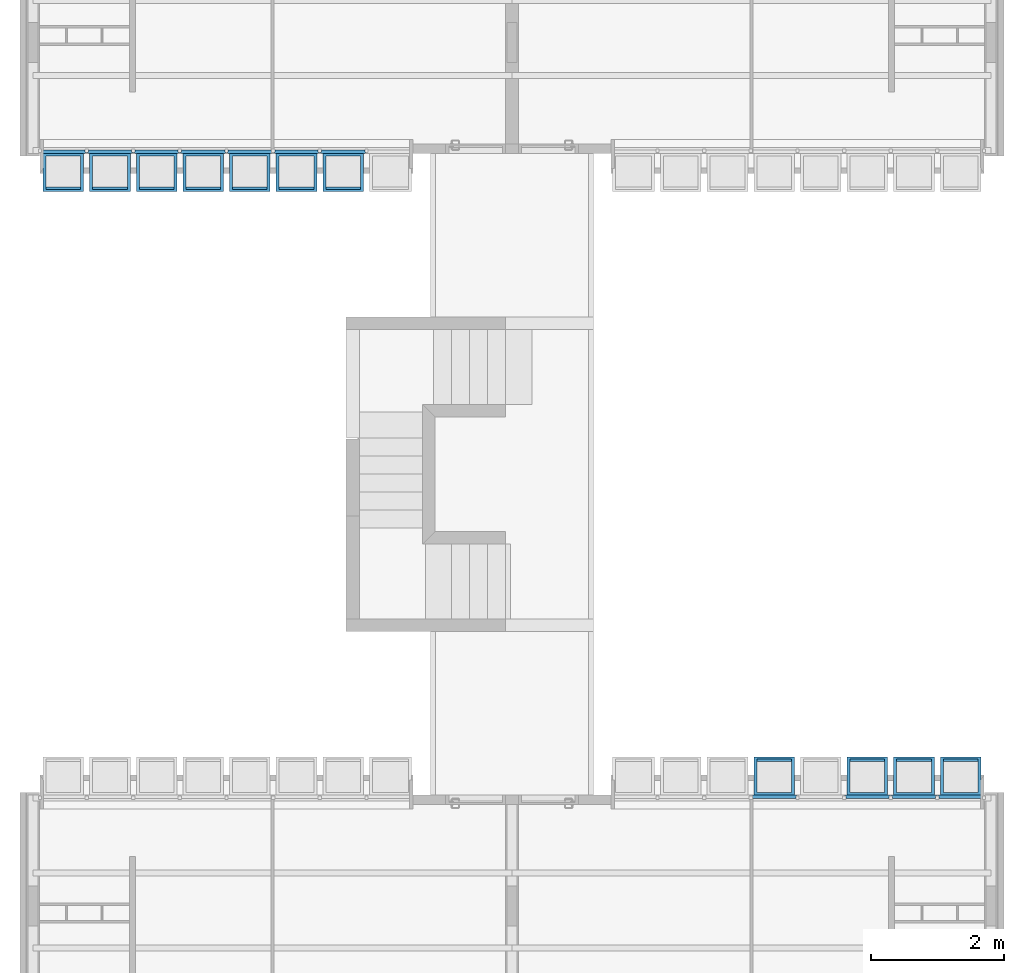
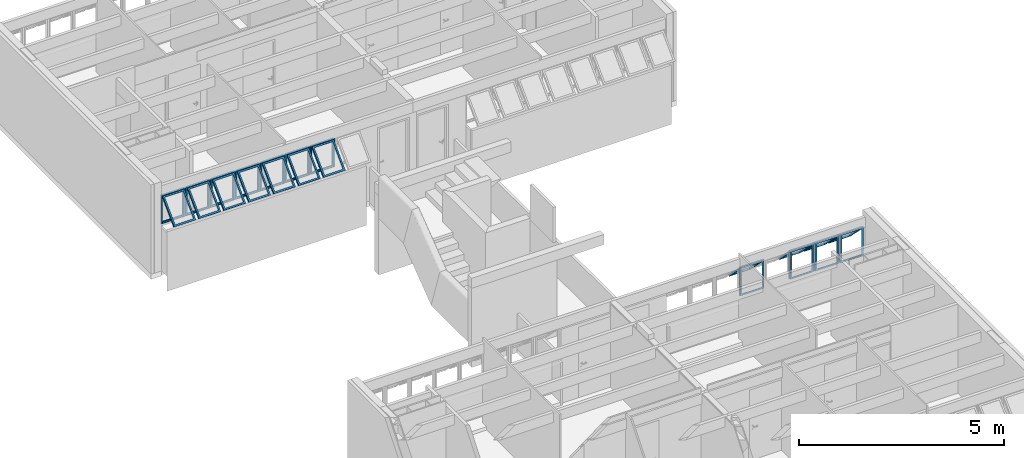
# One storey, part 31 of 38: 11 building element parts, 13 elements without a shape of their own.
"""IFC2X3 building model written with IfcOpenShell, lengths in millimetres."""

from ifc_helpers import new_model, entity, si_unit, converted_unit, derived_unit, money_unit, direction, frame, origin_with_axes, place, context, subcontext, project, spatial, faceted_brep, source, transform, mapped, material, type_object, element, aggregate, save


model = new_model("IFC2X3")

# Units and contexts
model_context = context("Model", 3, precision=0.01, world=origin_with_axes(), true_north=direction((0.0, 1.0)))
body_context = subcontext(model_context, "Body", "Model", "MODEL_VIEW")
ifc_project = project(units=[si_unit("LENGTHUNIT", "METRE", prefix="MILLI"), si_unit("AREAUNIT", "SQUARE_METRE"), si_unit("VOLUMEUNIT", "CUBIC_METRE"), converted_unit("PLANEANGLEUNIT", "DEGREE", entity("IfcPlaneAngleMeasure", 0.0174532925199), si_unit("PLANEANGLEUNIT", "RADIAN"), dimensions=[0, 0, 0, 0, 0, 0, 0]), money_unit("USD"), converted_unit("TIMEUNIT", "Year", entity("IfcTimeMeasure", 31556926.0), si_unit("TIMEUNIT", "SECOND"), dimensions=[0, 0, 1, 0, 0, 0, 0]), si_unit("MASSUNIT", "GRAM", prefix="KILO"), si_unit("THERMODYNAMICTEMPERATUREUNIT", "DEGREE_CELSIUS"), si_unit("LUMINOUSINTENSITYUNIT", "LUMEN"), si_unit("ENERGYUNIT", "JOULE", prefix="MEGA"), derived_unit("THERMALCONDUCTANCEUNIT", [(si_unit("POWERUNIT", "WATT"), 1), (si_unit("LENGTHUNIT", "METRE"), -1), (si_unit("THERMODYNAMICTEMPERATUREUNIT", "KELVIN"), -1)]), derived_unit("SPECIFICHEATCAPACITYUNIT", [(si_unit("ENERGYUNIT", "JOULE"), 1), (si_unit("MASSUNIT", "GRAM", prefix="KILO"), -1), (si_unit("THERMODYNAMICTEMPERATUREUNIT", "KELVIN"), -1)]), derived_unit("MASSDENSITYUNIT", [(si_unit("MASSUNIT", "GRAM", prefix="KILO"), 1), (si_unit("VOLUMEUNIT", "CUBIC_METRE"), -1)])], contexts=[model_context])

# Site, building, storey
site_placement = place(None, origin_with_axes())
site = spatial("IfcSite", under=ifc_project, at=site_placement, Name="Local", CompositionType="ELEMENT")
building_placement = place(site_placement, origin_with_axes())
building = spatial("IfcBuilding", under=site, at=building_placement, Name="Construção", CompositionType="ELEMENT")
storey_placement = place(building_placement, frame((0.0, 0.0, 2650.0), z_axis=(0.0, 0.0, 1.0), x_axis=(1.0, 0.0, 0.0)))
storey = spatial("IfcBuildingStorey", under=building, at=storey_placement, Name="Segundo Pavimento", CompositionType="ELEMENT", Elevation=2650.0)

# Window, plates, building element parts
window_style = type_object("IfcWindowStyle", Name="Tipo de Parede Cortina", ConstructionType="NOTDEFINED", OperationType="NOTDEFINED", ParameterTakesPrecedence=False, Sizeable=False)
window_1_placement = place(storey_placement, frame((2750.0, 17910.0, 1355.00007107), z_axis=(0.0, 0.0, 1.0), x_axis=(1.0, 0.0, 0.0)))
window_1 = element("IfcWindow", 1, at=window_1_placement, inside=storey, type_object=window_style, Name="APTO7-JANELA-000")
plate_type = type_object("IfcPlateType", Name="Painel Principal 690 x 845 x 20", PredefinedType="CURTAIN_PANEL")
plate_1_placement = place(window_1_placement, frame((0.0, 0.0, 422.499964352), z_axis=(0.0, 0.0, 1.0), x_axis=(-1.0, 0.0, 0.0)))
plate_1 = element("IfcPlate", 2, at=plate_1_placement, type_object=plate_type, Name="APTO7-Painel-Prin-013")
ifc_material = material(Name="Alumínio")
shared_shape_1 = source(origin_with_axes(), body_context, "Body", "Brep", [
    faceted_brep([(25.0000036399, 0.0, -40.0), (674.999997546, 0.0, -40.0), (674.999997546, 0.0, -35.0), (25.0000036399, 0.0, -35.0), (70.0000036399, 45.0, -40.0), (629.999997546, 45.0, -40.0), (629.999997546, 45.0, -35.0), (70.0000036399, 45.0, -35.0)], [[[0, 1, 2, 3]], [[0, 4, 5, 1]], [[1, 5, 6, 2]], [[3, 2, 6, 7]], [[4, 0, 3, 7]], [[5, 4, 7, 6]]]),
    faceted_brep([(674.999997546, 0.0, -40.0), (674.999997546, 844.999891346, -40.0), (674.999997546, 844.999891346, -35.0), (674.999997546, 0.0, -35.0), (629.999997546, 45.0, -40.0), (629.999997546, 799.999891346, -40.0), (629.999997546, 799.999891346, -35.0), (629.999997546, 45.0, -35.0)], [[[0, 1, 2, 3]], [[0, 4, 5, 1]], [[1, 5, 6, 2]], [[3, 2, 6, 7]], [[4, 0, 3, 7]], [[5, 4, 7, 6]]]),
    faceted_brep([(25.0000036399, 844.999891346, -40.0), (70.0000036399, 799.999891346, -40.0), (70.0000036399, 799.999891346, -35.0), (25.0000036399, 844.999891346, -35.0), (674.999997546, 844.999891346, -40.0), (629.999997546, 799.999891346, -40.0), (629.999997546, 799.999891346, -35.0), (674.999997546, 844.999891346, -35.0)], [[[0, 1, 2, 3]], [[0, 4, 5, 1]], [[1, 5, 6, 2]], [[3, 2, 6, 7]], [[4, 0, 3, 7]], [[5, 4, 7, 6]]]),
    faceted_brep([(25.0000036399, 0.0, -40.0), (70.0000036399, 45.0, -40.0), (70.0000036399, 45.0, -35.0), (25.0000036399, 0.0, -35.0), (25.0000036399, 844.999891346, -40.0), (70.0000036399, 799.999891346, -40.0), (70.0000036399, 799.999891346, -35.0), (25.0000036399, 844.999891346, -35.0)], [[[0, 1, 2, 3]], [[0, 4, 5, 1]], [[1, 5, 6, 2]], [[3, 2, 6, 7]], [[4, 0, 3, 7]], [[5, 4, 7, 6]]]),
    faceted_brep([(25.0000036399, 0.0, -35.0), (674.999997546, 0.0, -35.0), (674.999997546, 0.0, 15.0), (25.0000036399, 0.0, 15.0), (45.0000036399, 20.0, -35.0), (654.999997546, 20.0, -35.0), (654.999997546, 20.0, 15.0), (45.0000036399, 20.0, 15.0)], [[[0, 1, 2, 3]], [[0, 4, 5, 1]], [[1, 5, 6, 2]], [[3, 2, 6, 7]], [[4, 0, 3, 7]], [[5, 4, 7, 6]]]),
    faceted_brep([(674.999997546, 0.0, -35.0), (674.999997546, 844.999891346, -35.0), (674.999997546, 844.999891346, 15.0), (674.999997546, 0.0, 15.0), (654.999997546, 20.0, -35.0), (654.999997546, 824.999891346, -35.0), (654.999997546, 824.999891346, 15.0), (654.999997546, 20.0, 15.0)], [[[0, 1, 2, 3]], [[0, 4, 5, 1]], [[1, 5, 6, 2]], [[3, 2, 6, 7]], [[4, 0, 3, 7]], [[5, 4, 7, 6]]]),
    faceted_brep([(25.0000036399, 844.999891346, -35.0), (45.0000036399, 824.999891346, -35.0), (45.0000036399, 824.999891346, 15.0), (25.0000036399, 844.999891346, 15.0), (674.999997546, 844.999891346, -35.0), (654.999997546, 824.999891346, -35.0), (654.999997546, 824.999891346, 15.0), (674.999997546, 844.999891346, 15.0)], [[[0, 1, 2, 3]], [[0, 4, 5, 1]], [[1, 5, 6, 2]], [[3, 2, 6, 7]], [[4, 0, 3, 7]], [[5, 4, 7, 6]]]),
    faceted_brep([(25.0000036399, 0.0, -35.0), (45.0000036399, 20.0, -35.0), (45.0000036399, 20.0, 15.0), (25.0000036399, 0.0, 15.0), (25.0000036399, 844.999891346, -35.0), (45.0000036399, 824.999891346, -35.0), (45.0000036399, 824.999891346, 15.0), (25.0000036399, 844.999891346, 15.0)], [[[0, 1, 2, 3]], [[0, 4, 5, 1]], [[1, 5, 6, 2]], [[3, 2, 6, 7]], [[4, 0, 3, 7]], [[5, 4, 7, 6]]]),
    faceted_brep([(694.999995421, 0.0, -10.0), (694.999995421, 844.999891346, -10.0), (694.999995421, 844.999891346, 10.0), (694.999995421, 0.0, 10.0), (674.999997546, 0.0, -10.0), (674.999997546, 844.999891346, -10.0), (674.999997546, 844.999891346, 10.0), (674.999997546, 0.0, 10.0)], [[[0, 1, 2, 3]], [[0, 4, 5, 1]], [[1, 5, 6, 2]], [[3, 2, 6, 7]], [[4, 0, 3, 7]], [[5, 4, 7, 6]]]),
    faceted_brep([(5.00000576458, 844.999891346, -10.0), (5.00000576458, 0.0, -10.0), (5.00000576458, 0.0, 10.0), (5.00000576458, 844.999891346, 10.0), (25.0000036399, 844.999891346, -10.0), (25.0000036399, 0.0, -10.0), (25.0000036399, 0.0, 10.0), (25.0000036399, 844.999891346, 10.0)], [[[0, 1, 2, 3]], [[0, 4, 5, 1]], [[1, 5, 6, 2]], [[3, 2, 6, 7]], [[4, 0, 3, 7]], [[5, 4, 7, 6]]]),
    faceted_brep([(90.0000036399, 252.243475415, 517.045737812), (90.0000036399, 757.824747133, 11.4644660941), (90.0000036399, 796.715620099, 50.3553390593), (90.0000036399, 291.13434838, 555.936610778), (45.0000036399, 220.423670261, 548.865542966), (45.0000036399, 789.644552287, -20.3553390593), (45.0000036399, 828.535425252, 18.5355339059), (45.0000036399, 259.314543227, 587.756415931)], [[[0, 1, 2, 3]], [[0, 4, 5, 1]], [[1, 5, 6, 2]], [[3, 2, 6, 7]], [[4, 0, 3, 7]], [[5, 4, 7, 6]]]),
    faceted_brep([(654.999997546, 220.423670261, 548.865542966), (654.999997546, 789.644552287, -20.3553390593), (654.999997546, 828.535425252, 18.5355339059), (654.999997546, 259.314543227, 587.756415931), (609.999997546, 252.243475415, 517.045737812), (609.999997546, 757.824747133, 11.4644660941), (609.999997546, 796.715620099, 50.3553390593), (609.999997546, 291.13434838, 555.936610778)], [[[0, 1, 2, 3]], [[0, 4, 5, 1]], [[1, 5, 6, 2]], [[3, 2, 6, 7]], [[4, 0, 3, 7]], [[5, 4, 7, 6]]]),
    faceted_brep([(654.999997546, 220.423670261, 548.865542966), (609.999997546, 252.243475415, 517.045737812), (609.999997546, 291.13434838, 555.936610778), (654.999997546, 259.314543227, 587.756415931), (45.0000036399, 220.423670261, 548.865542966), (90.0000036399, 252.243475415, 517.045737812), (90.0000036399, 291.13434838, 555.936610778), (45.0000036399, 259.314543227, 587.756415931)], [[[0, 1, 2, 3]], [[0, 4, 5, 1]], [[1, 5, 6, 2]], [[3, 2, 6, 7]], [[4, 0, 3, 7]], [[5, 4, 7, 6]]]),
    faceted_brep([(45.0000036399, 789.644552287, -20.3553390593), (90.0000036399, 757.824747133, 11.4644660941), (90.0000036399, 796.715620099, 50.3553390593), (45.0000036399, 828.535425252, 18.5355339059), (654.999997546, 789.644552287, -20.3553390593), (609.999997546, 757.824747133, 11.4644660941), (609.999997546, 796.715620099, 50.3553390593), (654.999997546, 828.535425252, 18.5355339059)], [[[0, 1, 2, 3]], [[0, 4, 5, 1]], [[1, 5, 6, 2]], [[3, 2, 6, 7]], [[4, 0, 3, 7]], [[5, 4, 7, 6]]]),
])
building_element_part_1_placement = place(plate_1_placement, origin_with_axes())
building_element_part_1 = element("IfcBuildingElementPart", 3, at=building_element_part_1_placement, material=ifc_material, Name="Alumínio", context=body_context, shape_type="MappedRepresentation", body=[
    mapped(shared_shape_1, transform((350.0, 0.0, -422.499964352), x_axis=(-1.0, 0.0, 0.0), y_axis=(0.0, 0.0, 1.0), z_axis=(0.0, 1.0, 0.0))),
])
aggregate(plate_1, [building_element_part_1])
plate_2_placement = place(window_1_placement, frame((2100.0, 0.0, 422.499964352), z_axis=(0.0, 0.0, 1.0), x_axis=(-1.0, 0.0, 0.0)))
plate_2 = element("IfcPlate", 4, at=plate_2_placement, type_object=plate_type, Name="APTO7-Painel-Prin-029")
building_element_part_2_placement = place(plate_2_placement, origin_with_axes())
building_element_part_2 = element("IfcBuildingElementPart", 5, at=building_element_part_2_placement, material=ifc_material, Name="Alumínio", context=body_context, shape_type="MappedRepresentation", body=[
    mapped(shared_shape_1, transform((350.0, 0.0, -422.499964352), x_axis=(-1.0, 0.0, 0.0), y_axis=(0.0, 0.0, 1.0), z_axis=(0.0, 1.0, 0.0))),
])
aggregate(plate_2, [building_element_part_2])

window_2_placement = place(storey_placement, frame((12020.0, 8250.0, 1355.00007107), z_axis=(0.0, 0.0, 1.0), x_axis=(1.0, 0.0, 0.0)))
window_2 = element("IfcWindow", 6, at=window_2_placement, inside=storey, type_object=window_style, Name="APTO6-JANELA-000")
plate_3_placement = place(window_2_placement, frame((2100.0, 0.0, 422.499998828), z_axis=(0.0, 0.0, 1.0), x_axis=(1.0, 0.0, 0.0)))
plate_3 = element("IfcPlate", 7, at=plate_3_placement, type_object=plate_type, Name="APTO6-Painel-Prin-013")
shared_shape_2 = source(origin_with_axes(), body_context, "Body", "Brep", [
    faceted_brep([(25.0000036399, 0.0, -40.0), (674.999997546, 0.0, -40.0), (674.999997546, 0.0, -35.0), (25.0000036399, 0.0, -35.0), (70.0000036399, 45.0, -40.0), (629.999997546, 45.0, -40.0), (629.999997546, 45.0, -35.0), (70.0000036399, 45.0, -35.0)], [[[0, 1, 2, 3]], [[0, 4, 5, 1]], [[1, 5, 6, 2]], [[3, 2, 6, 7]], [[4, 0, 3, 7]], [[5, 4, 7, 6]]]),
    faceted_brep([(674.999997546, 0.0, -40.0), (674.999997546, 844.999891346, -40.0), (674.999997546, 844.999891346, -35.0), (674.999997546, 0.0, -35.0), (629.999997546, 45.0, -40.0), (629.999997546, 799.999891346, -40.0), (629.999997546, 799.999891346, -35.0), (629.999997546, 45.0, -35.0)], [[[0, 1, 2, 3]], [[0, 4, 5, 1]], [[1, 5, 6, 2]], [[3, 2, 6, 7]], [[4, 0, 3, 7]], [[5, 4, 7, 6]]]),
    faceted_brep([(25.0000036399, 844.999891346, -40.0), (70.0000036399, 799.999891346, -40.0), (70.0000036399, 799.999891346, -35.0), (25.0000036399, 844.999891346, -35.0), (674.999997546, 844.999891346, -40.0), (629.999997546, 799.999891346, -40.0), (629.999997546, 799.999891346, -35.0), (674.999997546, 844.999891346, -35.0)], [[[0, 1, 2, 3]], [[0, 4, 5, 1]], [[1, 5, 6, 2]], [[3, 2, 6, 7]], [[4, 0, 3, 7]], [[5, 4, 7, 6]]]),
    faceted_brep([(25.0000036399, 0.0, -40.0), (70.0000036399, 45.0, -40.0), (70.0000036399, 45.0, -35.0), (25.0000036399, 0.0, -35.0), (25.0000036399, 844.999891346, -40.0), (70.0000036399, 799.999891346, -40.0), (70.0000036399, 799.999891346, -35.0), (25.0000036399, 844.999891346, -35.0)], [[[0, 1, 2, 3]], [[0, 4, 5, 1]], [[1, 5, 6, 2]], [[3, 2, 6, 7]], [[4, 0, 3, 7]], [[5, 4, 7, 6]]]),
    faceted_brep([(25.0000036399, 0.0, -35.0), (674.999997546, 0.0, -35.0), (674.999997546, 0.0, 15.0), (25.0000036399, 0.0, 15.0), (45.0000036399, 20.0, -35.0), (654.999997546, 20.0, -35.0), (654.999997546, 20.0, 15.0), (45.0000036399, 20.0, 15.0)], [[[0, 1, 2, 3]], [[0, 4, 5, 1]], [[1, 5, 6, 2]], [[3, 2, 6, 7]], [[4, 0, 3, 7]], [[5, 4, 7, 6]]]),
    faceted_brep([(674.999997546, 0.0, -35.0), (674.999997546, 844.999891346, -35.0), (674.999997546, 844.999891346, 15.0), (674.999997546, 0.0, 15.0), (654.999997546, 20.0, -35.0), (654.999997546, 824.999891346, -35.0), (654.999997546, 824.999891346, 15.0), (654.999997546, 20.0, 15.0)], [[[0, 1, 2, 3]], [[0, 4, 5, 1]], [[1, 5, 6, 2]], [[3, 2, 6, 7]], [[4, 0, 3, 7]], [[5, 4, 7, 6]]]),
    faceted_brep([(25.0000036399, 844.999891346, -35.0), (45.0000036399, 824.999891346, -35.0), (45.0000036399, 824.999891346, 15.0), (25.0000036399, 844.999891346, 15.0), (674.999997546, 844.999891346, -35.0), (654.999997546, 824.999891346, -35.0), (654.999997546, 824.999891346, 15.0), (674.999997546, 844.999891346, 15.0)], [[[0, 1, 2, 3]], [[0, 4, 5, 1]], [[1, 5, 6, 2]], [[3, 2, 6, 7]], [[4, 0, 3, 7]], [[5, 4, 7, 6]]]),
    faceted_brep([(25.0000036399, 0.0, -35.0), (45.0000036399, 20.0, -35.0), (45.0000036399, 20.0, 15.0), (25.0000036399, 0.0, 15.0), (25.0000036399, 844.999891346, -35.0), (45.0000036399, 824.999891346, -35.0), (45.0000036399, 824.999891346, 15.0), (25.0000036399, 844.999891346, 15.0)], [[[0, 1, 2, 3]], [[0, 4, 5, 1]], [[1, 5, 6, 2]], [[3, 2, 6, 7]], [[4, 0, 3, 7]], [[5, 4, 7, 6]]]),
    faceted_brep([(694.999995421, 0.0, -10.0), (694.999995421, 844.999891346, -10.0), (694.999995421, 844.999891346, 10.0), (694.999995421, 0.0, 10.0), (674.999997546, 0.0, -10.0), (674.999997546, 844.999891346, -10.0), (674.999997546, 844.999891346, 10.0), (674.999997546, 0.0, 10.0)], [[[0, 1, 2, 3]], [[0, 4, 5, 1]], [[1, 5, 6, 2]], [[3, 2, 6, 7]], [[4, 0, 3, 7]], [[5, 4, 7, 6]]]),
    faceted_brep([(5.00000576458, 844.999891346, -10.0), (5.00000576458, 0.0, -10.0), (5.00000576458, 0.0, 10.0), (5.00000576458, 844.999891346, 10.0), (25.0000036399, 844.999891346, -10.0), (25.0000036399, 0.0, -10.0), (25.0000036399, 0.0, 10.0), (25.0000036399, 844.999891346, 10.0)], [[[0, 1, 2, 3]], [[0, 4, 5, 1]], [[1, 5, 6, 2]], [[3, 2, 6, 7]], [[4, 0, 3, 7]], [[5, 4, 7, 6]]]),
    faceted_brep([(90.0000036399, 252.243475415, 517.045737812), (90.0000036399, 757.824747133, 11.4644660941), (90.0000036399, 796.715620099, 50.3553390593), (90.0000036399, 291.13434838, 555.936610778), (45.0000036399, 220.423670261, 548.865542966), (45.0000036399, 789.644552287, -20.3553390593), (45.0000036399, 828.535425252, 18.5355339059), (45.0000036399, 259.314543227, 587.756415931)], [[[0, 1, 2, 3]], [[0, 4, 5, 1]], [[1, 5, 6, 2]], [[3, 2, 6, 7]], [[4, 0, 3, 7]], [[5, 4, 7, 6]]]),
    faceted_brep([(654.999997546, 220.423670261, 548.865542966), (654.999997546, 789.644552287, -20.3553390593), (654.999997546, 828.535425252, 18.5355339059), (654.999997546, 259.314543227, 587.756415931), (609.999997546, 252.243475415, 517.045737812), (609.999997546, 757.824747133, 11.4644660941), (609.999997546, 796.715620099, 50.3553390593), (609.999997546, 291.13434838, 555.936610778)], [[[0, 1, 2, 3]], [[0, 4, 5, 1]], [[1, 5, 6, 2]], [[3, 2, 6, 7]], [[4, 0, 3, 7]], [[5, 4, 7, 6]]]),
    faceted_brep([(654.999997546, 220.423670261, 548.865542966), (609.999997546, 252.243475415, 517.045737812), (609.999997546, 291.13434838, 555.936610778), (654.999997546, 259.314543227, 587.756415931), (45.0000036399, 220.423670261, 548.865542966), (90.0000036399, 252.243475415, 517.045737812), (90.0000036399, 291.13434838, 555.936610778), (45.0000036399, 259.314543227, 587.756415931)], [[[0, 1, 2, 3]], [[0, 4, 5, 1]], [[1, 5, 6, 2]], [[3, 2, 6, 7]], [[4, 0, 3, 7]], [[5, 4, 7, 6]]]),
    faceted_brep([(45.0000036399, 789.644552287, -20.3553390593), (90.0000036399, 757.824747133, 11.4644660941), (90.0000036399, 796.715620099, 50.3553390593), (45.0000036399, 828.535425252, 18.5355339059), (654.999997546, 789.644552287, -20.3553390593), (609.999997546, 757.824747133, 11.4644660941), (609.999997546, 796.715620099, 50.3553390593), (654.999997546, 828.535425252, 18.5355339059)], [[[0, 1, 2, 3]], [[0, 4, 5, 1]], [[1, 5, 6, 2]], [[3, 2, 6, 7]], [[4, 0, 3, 7]], [[5, 4, 7, 6]]]),
])
building_element_part_3_placement = place(plate_3_placement, origin_with_axes())
building_element_part_3 = element("IfcBuildingElementPart", 8, at=building_element_part_3_placement, material=ifc_material, Name="Alumínio", context=body_context, shape_type="MappedRepresentation", body=[
    mapped(shared_shape_2, transform((350.0, 0.0, -422.499998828), x_axis=(-1.0, 0.0, 0.0), y_axis=(0.0, 0.0, 1.0), z_axis=(0.0, 1.0, 0.0))),
])
aggregate(plate_3, [building_element_part_3])
plate_4_placement = place(window_2_placement, frame((1400.0, 0.0, 422.499964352), z_axis=(0.0, 0.0, 1.0), x_axis=(1.0, 0.0, 0.0)))
plate_4 = element("IfcPlate", 9, at=plate_4_placement, type_object=plate_type, Name="APTO6-Painel-Prin-013")
building_element_part_4_placement = place(plate_4_placement, origin_with_axes())
building_element_part_4 = element("IfcBuildingElementPart", 10, at=building_element_part_4_placement, material=ifc_material, Name="Alumínio", context=body_context, shape_type="MappedRepresentation", body=[
    mapped(shared_shape_2, transform((350.0, 0.0, -422.499964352), x_axis=(-1.0, 0.0, 0.0), y_axis=(0.0, 0.0, 1.0), z_axis=(0.0, 1.0, 0.0))),
])
aggregate(plate_4, [building_element_part_4])

# Plate, building element part
plate_5_placement = place(window_1_placement, frame((-2100.0, 0.0, 422.499998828), z_axis=(0.0, 0.0, 1.0), x_axis=(-1.0, 0.0, 0.0)))
plate_5 = element("IfcPlate", 11, at=plate_5_placement, type_object=plate_type, Name="APTO7-Painel-Prin-013")
building_element_part_5_placement = place(plate_5_placement, origin_with_axes())
building_element_part_5 = element("IfcBuildingElementPart", 12, at=building_element_part_5_placement, material=ifc_material, Name="Alumínio", context=body_context, shape_type="MappedRepresentation", body=[
    mapped(shared_shape_2, transform((350.0, 0.0, -422.499998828), x_axis=(-1.0, 0.0, 0.0), y_axis=(0.0, 0.0, 1.0), z_axis=(0.0, 1.0, 0.0))),
])
aggregate(plate_5, [building_element_part_5])

plate_6_placement = place(window_1_placement, frame((-1400.0, 0.0, 422.499964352), z_axis=(0.0, 0.0, 1.0), x_axis=(-1.0, 0.0, 0.0)))
plate_6 = element("IfcPlate", 13, at=plate_6_placement, type_object=plate_type, Name="APTO7-Painel-Prin-013")
building_element_part_6_placement = place(plate_6_placement, origin_with_axes())
building_element_part_6 = element("IfcBuildingElementPart", 14, at=building_element_part_6_placement, material=ifc_material, Name="Alumínio", context=body_context, shape_type="MappedRepresentation", body=[
    mapped(shared_shape_2, transform((350.0, 0.0, -422.499964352), x_axis=(-1.0, 0.0, 0.0), y_axis=(0.0, 0.0, 1.0), z_axis=(0.0, 1.0, 0.0))),
])
aggregate(plate_6, [building_element_part_6])

plate_7_placement = place(window_1_placement, frame((1400.0, 0.0, 422.499964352), z_axis=(0.0, 0.0, 1.0), x_axis=(-1.0, 0.0, 0.0)))
plate_7 = element("IfcPlate", 15, at=plate_7_placement, type_object=plate_type, Name="APTO7-Painel-Prin-025")
building_element_part_7_placement = place(plate_7_placement, origin_with_axes())
building_element_part_7 = element("IfcBuildingElementPart", 16, at=building_element_part_7_placement, material=ifc_material, Name="Alumínio", context=body_context, shape_type="MappedRepresentation", body=[
    mapped(shared_shape_2, transform((350.0, 0.0, -422.499964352), x_axis=(-1.0, 0.0, 0.0), y_axis=(0.0, 0.0, 1.0), z_axis=(0.0, 1.0, 0.0))),
])
aggregate(plate_7, [building_element_part_7])

plate_8_placement = place(window_2_placement, frame((-700.0, 0.0, 422.499964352), z_axis=(0.0, 0.0, 1.0), x_axis=(1.0, 0.0, 0.0)))
plate_8 = element("IfcPlate", 17, at=plate_8_placement, type_object=plate_type, Name="APTO6-Painel-Prin-013")
shared_shape_3 = source(origin_with_axes(), body_context, "Body", "Brep", [
    faceted_brep([(25.0000036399, 0.0, -40.0), (674.999997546, 0.0, -40.0), (674.999997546, 0.0, -35.0), (25.0000036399, 0.0, -35.0), (70.0000036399, 45.0, -40.0), (629.999997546, 45.0, -40.0), (629.999997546, 45.0, -35.0), (70.0000036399, 45.0, -35.0)], [[[0, 1, 2, 3]], [[0, 4, 5, 1]], [[1, 5, 6, 2]], [[3, 2, 6, 7]], [[4, 0, 3, 7]], [[5, 4, 7, 6]]]),
    faceted_brep([(674.999997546, 0.0, -40.0), (674.999997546, 844.999891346, -40.0), (674.999997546, 844.999891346, -35.0), (674.999997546, 0.0, -35.0), (629.999997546, 45.0, -40.0), (629.999997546, 799.999891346, -40.0), (629.999997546, 799.999891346, -35.0), (629.999997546, 45.0, -35.0)], [[[0, 1, 2, 3]], [[0, 4, 5, 1]], [[1, 5, 6, 2]], [[3, 2, 6, 7]], [[4, 0, 3, 7]], [[5, 4, 7, 6]]]),
    faceted_brep([(25.0000036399, 844.999891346, -40.0), (70.0000036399, 799.999891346, -40.0), (70.0000036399, 799.999891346, -35.0), (25.0000036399, 844.999891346, -35.0), (674.999997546, 844.999891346, -40.0), (629.999997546, 799.999891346, -40.0), (629.999997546, 799.999891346, -35.0), (674.999997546, 844.999891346, -35.0)], [[[0, 1, 2, 3]], [[0, 4, 5, 1]], [[1, 5, 6, 2]], [[3, 2, 6, 7]], [[4, 0, 3, 7]], [[5, 4, 7, 6]]]),
    faceted_brep([(25.0000036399, 0.0, -40.0), (70.0000036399, 45.0, -40.0), (70.0000036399, 45.0, -35.0), (25.0000036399, 0.0, -35.0), (25.0000036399, 844.999891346, -40.0), (70.0000036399, 799.999891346, -40.0), (70.0000036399, 799.999891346, -35.0), (25.0000036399, 844.999891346, -35.0)], [[[0, 1, 2, 3]], [[0, 4, 5, 1]], [[1, 5, 6, 2]], [[3, 2, 6, 7]], [[4, 0, 3, 7]], [[5, 4, 7, 6]]]),
    faceted_brep([(25.0000036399, 0.0, -35.0), (674.999997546, 0.0, -35.0), (674.999997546, 0.0, 15.0), (25.0000036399, 0.0, 15.0), (45.0000036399, 20.0, -35.0), (654.999997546, 20.0, -35.0), (654.999997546, 20.0, 15.0), (45.0000036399, 20.0, 15.0)], [[[0, 1, 2, 3]], [[0, 4, 5, 1]], [[1, 5, 6, 2]], [[3, 2, 6, 7]], [[4, 0, 3, 7]], [[5, 4, 7, 6]]]),
    faceted_brep([(674.999997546, 0.0, -35.0), (674.999997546, 844.999891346, -35.0), (674.999997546, 844.999891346, 15.0), (674.999997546, 0.0, 15.0), (654.999997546, 20.0, -35.0), (654.999997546, 824.999891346, -35.0), (654.999997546, 824.999891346, 15.0), (654.999997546, 20.0, 15.0)], [[[0, 1, 2, 3]], [[0, 4, 5, 1]], [[1, 5, 6, 2]], [[3, 2, 6, 7]], [[4, 0, 3, 7]], [[5, 4, 7, 6]]]),
    faceted_brep([(25.0000036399, 844.999891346, -35.0), (45.0000036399, 824.999891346, -35.0), (45.0000036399, 824.999891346, 15.0), (25.0000036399, 844.999891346, 15.0), (674.999997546, 844.999891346, -35.0), (654.999997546, 824.999891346, -35.0), (654.999997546, 824.999891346, 15.0), (674.999997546, 844.999891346, 15.0)], [[[0, 1, 2, 3]], [[0, 4, 5, 1]], [[1, 5, 6, 2]], [[3, 2, 6, 7]], [[4, 0, 3, 7]], [[5, 4, 7, 6]]]),
    faceted_brep([(25.0000036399, 0.0, -35.0), (45.0000036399, 20.0, -35.0), (45.0000036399, 20.0, 15.0), (25.0000036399, 0.0, 15.0), (25.0000036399, 844.999891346, -35.0), (45.0000036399, 824.999891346, -35.0), (45.0000036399, 824.999891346, 15.0), (25.0000036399, 844.999891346, 15.0)], [[[0, 1, 2, 3]], [[0, 4, 5, 1]], [[1, 5, 6, 2]], [[3, 2, 6, 7]], [[4, 0, 3, 7]], [[5, 4, 7, 6]]]),
    faceted_brep([(694.999995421, 0.0, -10.0), (694.999995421, 844.999891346, -10.0), (694.999995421, 844.999891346, 10.0), (694.999995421, 0.0, 10.0), (674.999997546, 0.0, -10.0), (674.999997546, 844.999891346, -10.0), (674.999997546, 844.999891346, 10.0), (674.999997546, 0.0, 10.0)], [[[0, 1, 2, 3]], [[0, 4, 5, 1]], [[1, 5, 6, 2]], [[3, 2, 6, 7]], [[4, 0, 3, 7]], [[5, 4, 7, 6]]]),
    faceted_brep([(5.00000576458, 844.999891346, -10.0), (5.00000576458, 0.0, -10.0), (5.00000576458, 0.0, 10.0), (5.00000576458, 844.999891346, 10.0), (25.0000036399, 844.999891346, -10.0), (25.0000036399, 0.0, -10.0), (25.0000036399, 0.0, 10.0), (25.0000036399, 844.999891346, 10.0)], [[[0, 1, 2, 3]], [[0, 4, 5, 1]], [[1, 5, 6, 2]], [[3, 2, 6, 7]], [[4, 0, 3, 7]], [[5, 4, 7, 6]]]),
    faceted_brep([(90.0000036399, 252.243475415, 517.045737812), (90.0000036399, 757.824747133, 11.4644660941), (90.0000036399, 796.715620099, 50.3553390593), (90.0000036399, 291.13434838, 555.936610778), (45.0000036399, 220.423670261, 548.865542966), (45.0000036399, 789.644552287, -20.3553390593), (45.0000036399, 828.535425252, 18.5355339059), (45.0000036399, 259.314543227, 587.756415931)], [[[0, 1, 2, 3]], [[0, 4, 5, 1]], [[1, 5, 6, 2]], [[3, 2, 6, 7]], [[4, 0, 3, 7]], [[5, 4, 7, 6]]]),
    faceted_brep([(654.999997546, 220.423670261, 548.865542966), (654.999997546, 789.644552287, -20.3553390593), (654.999997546, 828.535425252, 18.5355339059), (654.999997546, 259.314543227, 587.756415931), (609.999997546, 252.243475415, 517.045737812), (609.999997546, 757.824747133, 11.4644660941), (609.999997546, 796.715620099, 50.3553390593), (609.999997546, 291.13434838, 555.936610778)], [[[0, 1, 2, 3]], [[0, 4, 5, 1]], [[1, 5, 6, 2]], [[3, 2, 6, 7]], [[4, 0, 3, 7]], [[5, 4, 7, 6]]]),
    faceted_brep([(654.999997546, 220.423670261, 548.865542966), (609.999997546, 252.243475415, 517.045737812), (609.999997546, 291.13434838, 555.936610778), (654.999997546, 259.314543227, 587.756415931), (45.0000036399, 220.423670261, 548.865542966), (90.0000036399, 252.243475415, 517.045737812), (90.0000036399, 291.13434838, 555.936610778), (45.0000036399, 259.314543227, 587.756415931)], [[[0, 1, 2, 3]], [[0, 4, 5, 1]], [[1, 5, 6, 2]], [[3, 2, 6, 7]], [[4, 0, 3, 7]], [[5, 4, 7, 6]]]),
    faceted_brep([(45.0000036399, 789.644552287, -20.3553390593), (90.0000036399, 757.824747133, 11.4644660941), (90.0000036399, 796.715620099, 50.3553390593), (45.0000036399, 828.535425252, 18.5355339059), (654.999997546, 789.644552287, -20.3553390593), (609.999997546, 757.824747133, 11.4644660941), (609.999997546, 796.715620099, 50.3553390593), (654.999997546, 828.535425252, 18.5355339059)], [[[0, 1, 2, 3]], [[0, 4, 5, 1]], [[1, 5, 6, 2]], [[3, 2, 6, 7]], [[4, 0, 3, 7]], [[5, 4, 7, 6]]]),
])
building_element_part_8_placement = place(plate_8_placement, origin_with_axes())
building_element_part_8 = element("IfcBuildingElementPart", 18, at=building_element_part_8_placement, material=ifc_material, Name="Alumínio", context=body_context, shape_type="MappedRepresentation", body=[
    mapped(shared_shape_3, transform((350.0, 0.0, -422.499964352), x_axis=(-1.0, 0.0, 0.0), y_axis=(0.0, 0.0, 1.0), z_axis=(0.0, 1.0, 0.0))),
])
aggregate(plate_8, [building_element_part_8])

# Plate
plate_9_placement = place(window_2_placement, frame((700.0, 0.0, 422.499964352), z_axis=(0.0, 0.0, 1.0), x_axis=(1.0, 0.0, 0.0)))
plate_9 = element("IfcPlate", 19, at=plate_9_placement, type_object=plate_type, Name="APTO6-Painel-Prin-013")

aggregate(window_2, [plate_3, plate_4, plate_8, plate_9])

# Building element part
building_element_part_9_placement = place(plate_9_placement, origin_with_axes())
building_element_part_9 = element("IfcBuildingElementPart", 20, at=building_element_part_9_placement, material=ifc_material, Name="Alumínio", context=body_context, shape_type="MappedRepresentation", body=[
    mapped(shared_shape_3, transform((350.0, 0.0, -422.499964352), x_axis=(-1.0, 0.0, 0.0), y_axis=(0.0, 0.0, 1.0), z_axis=(0.0, 1.0, 0.0))),
])

aggregate(plate_9, [building_element_part_9])

# Plate, building element part
plate_10_placement = place(window_1_placement, frame((700.0, 0.0, 422.499964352), z_axis=(0.0, 0.0, 1.0), x_axis=(-1.0, 0.0, 0.0)))
plate_10 = element("IfcPlate", 21, at=plate_10_placement, type_object=plate_type, Name="APTO7-Painel-Prin-013")
building_element_part_10_placement = place(plate_10_placement, origin_with_axes())
building_element_part_10 = element("IfcBuildingElementPart", 22, at=building_element_part_10_placement, material=ifc_material, Name="Alumínio", context=body_context, shape_type="MappedRepresentation", body=[
    mapped(shared_shape_3, transform((350.0, 0.0, -422.499964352), x_axis=(-1.0, 0.0, 0.0), y_axis=(0.0, 0.0, 1.0), z_axis=(0.0, 1.0, 0.0))),
])
aggregate(plate_10, [building_element_part_10])

# Plate
plate_11_placement = place(window_1_placement, frame((-700.0, 0.0, 422.499964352), z_axis=(0.0, 0.0, 1.0), x_axis=(-1.0, 0.0, 0.0)))
plate_11 = element("IfcPlate", 23, at=plate_11_placement, type_object=plate_type, Name="APTO7-Painel-Prin-013")

aggregate(window_1, [plate_1, plate_2, plate_5, plate_6, plate_10, plate_7, plate_11])

# Building element part
building_element_part_11_placement = place(plate_11_placement, origin_with_axes())
building_element_part_11 = element("IfcBuildingElementPart", 24, at=building_element_part_11_placement, material=ifc_material, Name="Alumínio", context=body_context, shape_type="MappedRepresentation", body=[
    mapped(shared_shape_3, transform((350.0, 0.0, -422.499964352), x_axis=(-1.0, 0.0, 0.0), y_axis=(0.0, 0.0, 1.0), z_axis=(0.0, 1.0, 0.0))),
])

aggregate(plate_11, [building_element_part_11])

save(model, "model.ifc")
